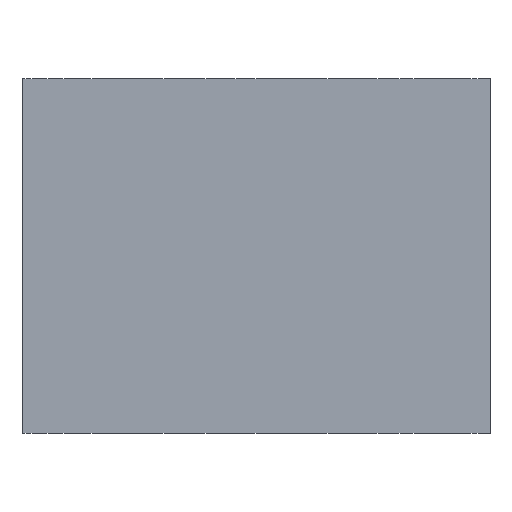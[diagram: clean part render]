
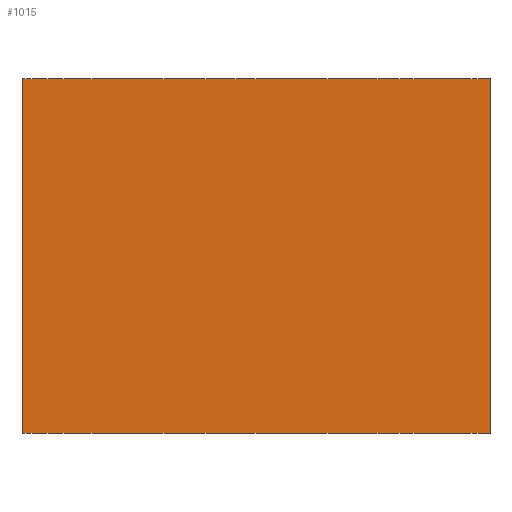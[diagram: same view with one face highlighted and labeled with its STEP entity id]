
A CAD part, front view. The second image highlights one B-rep face of the part: STEP entity #1015.
In plain terms, the highlighted planar face has unit normal (0, -1, 0).
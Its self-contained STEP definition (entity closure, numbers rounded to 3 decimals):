
#31 = VERTEX_POINT ( 'NONE', #538 ) ;
#39 = EDGE_CURVE ( 'NONE', #31, #122, #653, .T. ) ;
#90 = EDGE_CURVE ( 'NONE', #1598, #205, #1031, .T. ) ;
#122 = VERTEX_POINT ( 'NONE', #1148 ) ;
#129 = ORIENTED_EDGE ( 'NONE', *, *, #90, .F. ) ;
#205 = VERTEX_POINT ( 'NONE', #851 ) ;
#235 = EDGE_CURVE ( 'NONE', #122, #205, #348, .T. ) ;
#273 = ORIENTED_EDGE ( 'NONE', *, *, #235, .T. ) ;
#348 = LINE ( 'NONE', #349, #350 ) ;
#349 = CARTESIAN_POINT ( 'NONE',  ( 33., 0., 0. ) ) ;
#350 = VECTOR ( 'NONE', #351, 1000. ) ;
#351 = DIRECTION ( 'NONE',  ( 1., 0., 0. ) ) ;
#430 = LINE ( 'NONE', #436, #437 ) ;
#436 = CARTESIAN_POINT ( 'NONE',  ( 33., 0., 50. ) ) ;
#437 = VECTOR ( 'NONE', #438, 1000. ) ;
#438 = DIRECTION ( 'NONE',  ( 1., 0., 0. ) ) ;
#538 = CARTESIAN_POINT ( 'NONE',  ( -33., 0., 50. ) ) ;
#653 = LINE ( 'NONE', #654, #655 ) ;
#654 = CARTESIAN_POINT ( 'NONE',  ( -33., 0., 50. ) ) ;
#655 = VECTOR ( 'NONE', #656, 1000. ) ;
#656 = DIRECTION ( 'NONE',  ( 0., 0., -1. ) ) ;
#730 = ORIENTED_EDGE ( 'NONE', *, *, #39, .T. ) ;
#791 = EDGE_LOOP ( 'NONE', ( #273, #129, #1564, #730 ) ) ;
#851 = CARTESIAN_POINT ( 'NONE',  ( 33., 0., 0. ) ) ;
#914 = CARTESIAN_POINT ( 'NONE',  ( 33., 0., 50. ) ) ;
#936 = FACE_OUTER_BOUND ( 'NONE', #791, .T. ) ;
#937 = PLANE ( 'NONE',  #938 ) ;
#938 = AXIS2_PLACEMENT_3D ( 'NONE', #939, #940, #941 ) ;
#939 = CARTESIAN_POINT ( 'NONE',  ( 33., 0., 50. ) ) ;
#940 = DIRECTION ( 'NONE',  ( 0., 1., 0. ) ) ;
#941 = DIRECTION ( 'NONE',  ( 0., 0., 1. ) ) ;
#1015 = ADVANCED_FACE ( 'NONE', ( #936 ), #937, .F. ) ;
#1031 = LINE ( 'NONE', #1032, #1037 ) ;
#1032 = CARTESIAN_POINT ( 'NONE',  ( 33., 0., 50. ) ) ;
#1037 = VECTOR ( 'NONE', #1038, 1000. ) ;
#1038 = DIRECTION ( 'NONE',  ( 0., 0., -1. ) ) ;
#1148 = CARTESIAN_POINT ( 'NONE',  ( -33., 0., 0. ) ) ;
#1547 = EDGE_CURVE ( 'NONE', #31, #1598, #430, .T. ) ;
#1564 = ORIENTED_EDGE ( 'NONE', *, *, #1547, .F. ) ;
#1598 = VERTEX_POINT ( 'NONE', #914 ) ;
